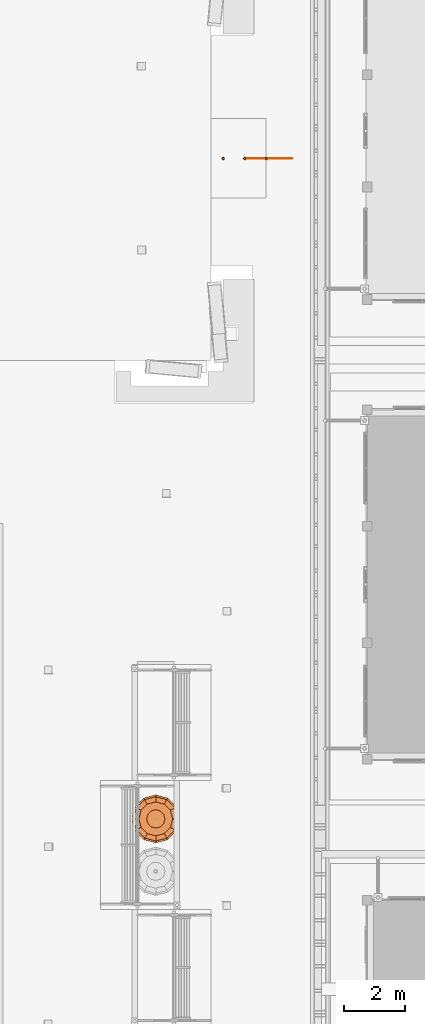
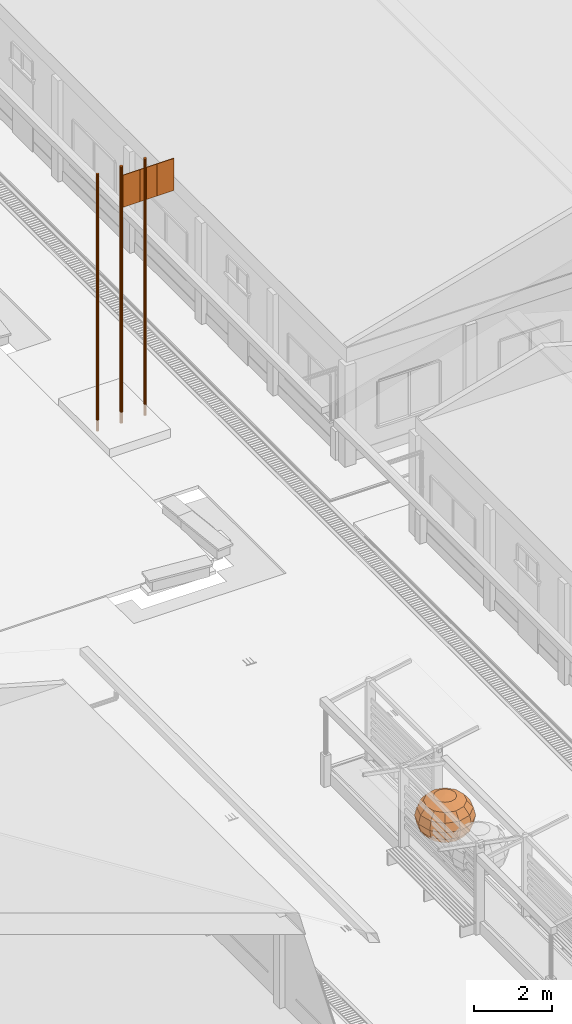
# One storey, part 153 of 166: 7 proxies.
"""IFC2X3 building model written with IfcOpenShell, lengths in metres."""

from ifc_helpers import new_model, si_unit, origin, origin_with_axes, place, context, subcontext, project, spatial, faceted_brep, element, save


model = new_model("IFC2X3")

# Units and contexts
model_context = context("Model", 3, precision=1e-05, world=origin_with_axes())
body_context = subcontext(model_context, "Body", "Model", "MODEL_VIEW")
ifc_project = project(units=[si_unit("LENGTHUNIT", "METRE"), si_unit("AREAUNIT", "SQUARE_METRE"), si_unit("VOLUMEUNIT", "CUBIC_METRE"), si_unit("PLANEANGLEUNIT", "RADIAN")], contexts=[model_context])

# Site, building, storey
site_placement = place(None, origin_with_axes())
site = spatial("IfcSite", under=ifc_project, at=site_placement, Name="Predio Los Mangos - Morales, San Martín", CompositionType="ELEMENT")
building_placement = place(site_placement, origin())
building = spatial("IfcBuilding", under=site, at=building_placement, Name="Hogar de Refugio Temporal", CompositionType="ELEMENT")
storey_placement = place(building_placement, origin())
storey = spatial("IfcBuildingStorey", under=building, at=storey_placement, Name="NIVEL 1 (NPT +0.00)", CompositionType="ELEMENT", Elevation=0.0)

# Proxies
proxy_1_placement = place(storey_placement, origin())
element("IfcBuildingElementProxy", 1, at=proxy_1_placement, inside=storey, Name="Cylinder", ObjectType="Elemento", context=body_context, shape_type="Brep", body=[
    faceted_brep([(40.6, 62.54, 0.0), (40.6, 62.54, 8.0), (40.6078, 62.5392, 8.0), (40.6078, 62.5392, 0.0), (40.6153, 62.537, 8.0), (40.6153, 62.537, 0.0), (40.6222, 62.5333, 8.0), (40.6222, 62.5333, 0.0), (40.6283, 62.5283, 8.0), (40.6283, 62.5283, 0.0), (40.6333, 62.5222, 8.0), (40.6333, 62.5222, 0.0), (40.637, 62.5153, 8.0), (40.637, 62.5153, 0.0), (40.6392, 62.5078, 8.0), (40.6392, 62.5078, 0.0), (40.64, 62.5, 8.0), (40.64, 62.5, 0.0), (40.6392, 62.4922, 8.0), (40.6392, 62.4922, 0.0), (40.637, 62.4847, 8.0), (40.637, 62.4847, 0.0), (40.6333, 62.4778, 8.0), (40.6333, 62.4778, 0.0), (40.6283, 62.4717, 8.0), (40.6283, 62.4717, 0.0), (40.6222, 62.4667, 8.0), (40.6222, 62.4667, 0.0), (40.6153, 62.463, 8.0), (40.6153, 62.463, 0.0), (40.6078, 62.4608, 8.0), (40.6078, 62.4608, 0.0), (40.6, 62.46, 8.0), (40.6, 62.46, 0.0), (40.5922, 62.4608, 8.0), (40.5922, 62.4608, 0.0), (40.5847, 62.463, 8.0), (40.5847, 62.463, 0.0), (40.5778, 62.4667, 8.0), (40.5778, 62.4667, 0.0), (40.5717, 62.4717, 8.0), (40.5717, 62.4717, 0.0), (40.5667, 62.4778, 8.0), (40.5667, 62.4778, 0.0), (40.563, 62.4847, 8.0), (40.563, 62.4847, 0.0), (40.5608, 62.4922, 8.0), (40.5608, 62.4922, 0.0), (40.56, 62.5, 8.0), (40.56, 62.5, 0.0), (40.5608, 62.5078, 8.0), (40.5608, 62.5078, 0.0), (40.563, 62.5153, 8.0), (40.563, 62.5153, 0.0), (40.5667, 62.5222, 8.0), (40.5667, 62.5222, 0.0), (40.5717, 62.5283, 8.0), (40.5717, 62.5283, 0.0), (40.5778, 62.5333, 8.0), (40.5778, 62.5333, 0.0), (40.5847, 62.537, 8.0), (40.5847, 62.537, 0.0), (40.5922, 62.5392, 8.0), (40.5922, 62.5392, 0.0)], [[[0, 1, 2, 3]], [[3, 2, 4, 5]], [[5, 4, 6, 7]], [[7, 6, 8, 9]], [[9, 8, 10, 11]], [[11, 10, 12, 13]], [[13, 12, 14, 15]], [[15, 14, 16, 17]], [[17, 16, 18, 19]], [[19, 18, 20, 21]], [[21, 20, 22, 23]], [[23, 22, 24, 25]], [[25, 24, 26, 27]], [[27, 26, 28, 29]], [[29, 28, 30, 31]], [[31, 30, 32, 33]], [[33, 32, 34, 35]], [[35, 34, 36, 37]], [[37, 36, 38, 39]], [[39, 38, 40, 41]], [[41, 40, 42, 43]], [[43, 42, 44, 45]], [[45, 44, 46, 47]], [[47, 46, 48, 49]], [[49, 48, 50, 51]], [[51, 50, 52, 53]], [[53, 52, 54, 55]], [[55, 54, 56, 57]], [[57, 56, 58, 59]], [[59, 58, 60, 61]], [[2, 1, 62, 60, 58, 56, 54, 52, 50, 48, 46, 44, 42, 40, 38, 36, 34, 32, 30, 28, 26, 24, 22, 20, 18, 16, 14, 12, 10, 8, 6, 4]], [[61, 60, 62, 63]], [[63, 62, 1, 0]], [[0, 3, 5, 7, 9, 11, 13, 15, 17, 19, 21, 23, 25, 27, 29, 31, 33, 35, 37, 39, 41, 43, 45, 47, 49, 51, 53, 55, 57, 59, 61, 63]]]),
])
proxy_2_placement = place(storey_placement, origin())
element("IfcBuildingElementProxy", 2, at=proxy_2_placement, inside=storey, Name="Cylinder", ObjectType="Elemento", context=body_context, shape_type="Brep", body=[
    faceted_brep([(41.3, 62.54, 0.0), (41.3, 62.54, 8.0), (41.3078, 62.5392, 8.0), (41.3078, 62.5392, 0.0), (41.3153, 62.537, 8.0), (41.3153, 62.537, 0.0), (41.3222, 62.5333, 8.0), (41.3222, 62.5333, 0.0), (41.3283, 62.5283, 8.0), (41.3283, 62.5283, 0.0), (41.3333, 62.5222, 8.0), (41.3333, 62.5222, 0.0), (41.337, 62.5153, 8.0), (41.337, 62.5153, 0.0), (41.3392, 62.5078, 8.0), (41.3392, 62.5078, 0.0), (41.34, 62.5, 8.0), (41.34, 62.5, 0.0), (41.3392, 62.4922, 8.0), (41.3392, 62.4922, 0.0), (41.337, 62.4847, 8.0), (41.337, 62.4847, 0.0), (41.3333, 62.4778, 8.0), (41.3333, 62.4778, 0.0), (41.3283, 62.4717, 8.0), (41.3283, 62.4717, 0.0), (41.3222, 62.4667, 8.0), (41.3222, 62.4667, 0.0), (41.3153, 62.463, 8.0), (41.3153, 62.463, 0.0), (41.3078, 62.4608, 8.0), (41.3078, 62.4608, 0.0), (41.3, 62.46, 8.0), (41.3, 62.46, 0.0), (41.2922, 62.4608, 8.0), (41.2922, 62.4608, 0.0), (41.2847, 62.463, 8.0), (41.2847, 62.463, 0.0), (41.2778, 62.4667, 8.0), (41.2778, 62.4667, 0.0), (41.2717, 62.4717, 8.0), (41.2717, 62.4717, 0.0), (41.2667, 62.4778, 8.0), (41.2667, 62.4778, 0.0), (41.263, 62.4847, 8.0), (41.263, 62.4847, 0.0), (41.2608, 62.4922, 8.0), (41.2608, 62.4922, 0.0), (41.26, 62.5, 8.0), (41.26, 62.5, 0.0), (41.2608, 62.5078, 8.0), (41.2608, 62.5078, 0.0), (41.263, 62.5153, 8.0), (41.263, 62.5153, 0.0), (41.2667, 62.5222, 8.0), (41.2667, 62.5222, 0.0), (41.2717, 62.5283, 8.0), (41.2717, 62.5283, 0.0), (41.2778, 62.5333, 8.0), (41.2778, 62.5333, 0.0), (41.2847, 62.537, 8.0), (41.2847, 62.537, 0.0), (41.2922, 62.5392, 8.0), (41.2922, 62.5392, 0.0)], [[[0, 1, 2, 3]], [[3, 2, 4, 5]], [[5, 4, 6, 7]], [[7, 6, 8, 9]], [[9, 8, 10, 11]], [[11, 10, 12, 13]], [[13, 12, 14, 15]], [[15, 14, 16, 17]], [[17, 16, 18, 19]], [[19, 18, 20, 21]], [[21, 20, 22, 23]], [[23, 22, 24, 25]], [[25, 24, 26, 27]], [[27, 26, 28, 29]], [[29, 28, 30, 31]], [[31, 30, 32, 33]], [[33, 32, 34, 35]], [[35, 34, 36, 37]], [[37, 36, 38, 39]], [[39, 38, 40, 41]], [[41, 40, 42, 43]], [[43, 42, 44, 45]], [[45, 44, 46, 47]], [[47, 46, 48, 49]], [[49, 48, 50, 51]], [[51, 50, 52, 53]], [[53, 52, 54, 55]], [[55, 54, 56, 57]], [[57, 56, 58, 59]], [[59, 58, 60, 61]], [[2, 1, 62, 60, 58, 56, 54, 52, 50, 48, 46, 44, 42, 40, 38, 36, 34, 32, 30, 28, 26, 24, 22, 20, 18, 16, 14, 12, 10, 8, 6, 4]], [[61, 60, 62, 63]], [[63, 62, 1, 0]], [[0, 3, 5, 7, 9, 11, 13, 15, 17, 19, 21, 23, 25, 27, 29, 31, 33, 35, 37, 39, 41, 43, 45, 47, 49, 51, 53, 55, 57, 59, 61, 63]]]),
])
proxy_3_placement = place(storey_placement, origin())
element("IfcBuildingElementProxy", 3, at=proxy_3_placement, inside=storey, Name="bandera", ObjectType="Asta de banderas", context=body_context, shape_type="Brep", body=[
    faceted_brep([(41.35, 62.49, 6.7), (41.35, 62.51, 6.7), (41.85, 62.51, 6.7), (41.85, 62.49, 6.7), (41.35, 62.49, 7.7), (41.85, 62.49, 7.7), (41.85, 62.51, 7.7), (41.35, 62.51, 7.7)], [[[0, 1, 2, 3]], [[4, 5, 6, 7]], [[0, 3, 5, 4]], [[3, 2, 6, 5]], [[2, 1, 7, 6]], [[1, 0, 4, 7]]]),
])
proxy_4_placement = place(storey_placement, origin())
element("IfcBuildingElementProxy", 4, at=proxy_4_placement, inside=storey, Name="bandera", ObjectType="Asta de banderas", context=body_context, shape_type="Brep", body=[
    faceted_brep([(41.85, 62.49, 6.7), (41.85, 62.51, 6.7), (42.35, 62.51, 6.7), (42.35, 62.49, 6.7), (41.85, 62.49, 7.7), (42.35, 62.49, 7.7), (42.35, 62.51, 7.7), (41.85, 62.51, 7.7)], [[[0, 1, 2, 3]], [[4, 5, 6, 7]], [[0, 3, 5, 4]], [[3, 2, 6, 5]], [[2, 1, 7, 6]], [[1, 0, 4, 7]]]),
])
proxy_5_placement = place(storey_placement, origin())
element("IfcBuildingElementProxy", 5, at=proxy_5_placement, inside=storey, Name="bandera", ObjectType="Asta de banderas", context=body_context, shape_type="Brep", body=[
    faceted_brep([(42.35, 62.49, 6.7), (42.35, 62.51, 6.7), (42.85, 62.51, 6.7), (42.85, 62.49, 6.7), (42.35, 62.49, 7.7), (42.85, 62.49, 7.7), (42.85, 62.51, 7.7), (42.35, 62.51, 7.7)], [[[0, 1, 2, 3]], [[4, 5, 6, 7]], [[0, 3, 5, 4]], [[3, 2, 6, 5]], [[2, 1, 7, 6]], [[1, 0, 4, 7]]]),
])
proxy_6_placement = place(storey_placement, origin())
element("IfcBuildingElementProxy", 6, at=proxy_6_placement, inside=storey, Name="Cylinder", ObjectType="Elemento", context=body_context, shape_type="Brep", body=[
    faceted_brep([(42.0, 62.54, 0.0), (42.0, 62.54, 8.0), (42.0078, 62.5392, 8.0), (42.0078, 62.5392, 0.0), (42.0153, 62.537, 8.0), (42.0153, 62.537, 0.0), (42.0222, 62.5333, 8.0), (42.0222, 62.5333, 0.0), (42.0283, 62.5283, 8.0), (42.0283, 62.5283, 0.0), (42.0333, 62.5222, 8.0), (42.0333, 62.5222, 0.0), (42.037, 62.5153, 8.0), (42.037, 62.5153, 0.0), (42.0392, 62.5078, 8.0), (42.0392, 62.5078, 0.0), (42.04, 62.5, 8.0), (42.04, 62.5, 0.0), (42.0392, 62.4922, 8.0), (42.0392, 62.4922, 0.0), (42.037, 62.4847, 8.0), (42.037, 62.4847, 0.0), (42.0333, 62.4778, 8.0), (42.0333, 62.4778, 0.0), (42.0283, 62.4717, 8.0), (42.0283, 62.4717, 0.0), (42.0222, 62.4667, 8.0), (42.0222, 62.4667, 0.0), (42.0153, 62.463, 8.0), (42.0153, 62.463, 0.0), (42.0078, 62.4608, 8.0), (42.0078, 62.4608, 0.0), (42.0, 62.46, 8.0), (42.0, 62.46, 0.0), (41.9922, 62.4608, 8.0), (41.9922, 62.4608, 0.0), (41.9847, 62.463, 8.0), (41.9847, 62.463, 0.0), (41.9778, 62.4667, 8.0), (41.9778, 62.4667, 0.0), (41.9717, 62.4717, 8.0), (41.9717, 62.4717, 0.0), (41.9667, 62.4778, 8.0), (41.9667, 62.4778, 0.0), (41.963, 62.4847, 8.0), (41.963, 62.4847, 0.0), (41.9608, 62.4922, 8.0), (41.9608, 62.4922, 0.0), (41.96, 62.5, 8.0), (41.96, 62.5, 0.0), (41.9608, 62.5078, 8.0), (41.9608, 62.5078, 0.0), (41.963, 62.5153, 8.0), (41.963, 62.5153, 0.0), (41.9667, 62.5222, 8.0), (41.9667, 62.5222, 0.0), (41.9717, 62.5283, 8.0), (41.9717, 62.5283, 0.0), (41.9778, 62.5333, 8.0), (41.9778, 62.5333, 0.0), (41.9847, 62.537, 8.0), (41.9847, 62.537, 0.0), (41.9922, 62.5392, 8.0), (41.9922, 62.5392, 0.0)], [[[0, 1, 2, 3]], [[3, 2, 4, 5]], [[5, 4, 6, 7]], [[7, 6, 8, 9]], [[9, 8, 10, 11]], [[11, 10, 12, 13]], [[13, 12, 14, 15]], [[15, 14, 16, 17]], [[17, 16, 18, 19]], [[19, 18, 20, 21]], [[21, 20, 22, 23]], [[23, 22, 24, 25]], [[25, 24, 26, 27]], [[27, 26, 28, 29]], [[29, 28, 30, 31]], [[31, 30, 32, 33]], [[33, 32, 34, 35]], [[35, 34, 36, 37]], [[37, 36, 38, 39]], [[39, 38, 40, 41]], [[41, 40, 42, 43]], [[43, 42, 44, 45]], [[45, 44, 46, 47]], [[47, 46, 48, 49]], [[49, 48, 50, 51]], [[51, 50, 52, 53]], [[53, 52, 54, 55]], [[55, 54, 56, 57]], [[57, 56, 58, 59]], [[59, 58, 60, 61]], [[2, 1, 62, 60, 58, 56, 54, 52, 50, 48, 46, 44, 42, 40, 38, 36, 34, 32, 30, 28, 26, 24, 22, 20, 18, 16, 14, 12, 10, 8, 6, 4]], [[61, 60, 62, 63]], [[63, 62, 1, 0]], [[0, 3, 5, 7, 9, 11, 13, 15, 17, 19, 21, 23, 25, 27, 29, 31, 33, 35, 37, 39, 41, 43, 45, 47, 49, 51, 53, 55, 57, 59, 61, 63]]]),
])
proxy_7_placement = place(storey_placement, origin())
element("IfcBuildingElementProxy", 7, at=proxy_7_placement, inside=storey, Name="arbol_copa", ObjectType="Árbol", context=body_context, shape_type="Brep", body=[
    faceted_brep([(38.4, 40.955, 2.5172), (38.4, 40.955, 2.5172), (38.6592, 41.1046, 2.4666), (38.6993, 40.955, 2.4666), (38.4, 40.955, 2.5172), (38.5496, 41.2142, 2.4666), (38.4, 40.955, 2.5172), (38.4, 41.2543, 2.4666), (38.4, 40.955, 2.5172), (38.2504, 41.2142, 2.4666), (38.4, 40.955, 2.5172), (38.1408, 41.1046, 2.4666), (38.4, 40.955, 2.5172), (38.1007, 40.955, 2.4666), (38.4, 40.955, 2.5172), (38.1408, 40.8054, 2.4666), (38.4, 40.955, 2.5172), (38.2504, 40.6958, 2.4666), (38.4, 40.955, 2.5172), (38.4, 40.6557, 2.4666), (38.4, 40.955, 2.5172), (38.5496, 40.6958, 2.4666), (38.4, 40.955, 2.5172), (38.6592, 40.8054, 2.4666), (38.8789, 41.2315, 2.3225), (38.953, 40.955, 2.3225), (38.6765, 41.4339, 2.3225), (38.4, 41.508, 2.3225), (38.1235, 41.4339, 2.3225), (37.9211, 41.2315, 2.3225), (37.847, 40.955, 2.3225), (37.9211, 40.6785, 2.3225), (38.1235, 40.4761, 2.3225), (38.4, 40.402, 2.3225), (38.6765, 40.4761, 2.3225), (38.8789, 40.6785, 2.3225), (39.0257, 41.3162, 2.1069), (39.1225, 40.955, 2.1069), (38.7612, 41.5807, 2.1069), (38.4, 41.6775, 2.1069), (38.0388, 41.5807, 2.1069), (37.7743, 41.3162, 2.1069), (37.6775, 40.955, 2.1069), (37.7743, 40.5938, 2.1069), (38.0388, 40.3293, 2.1069), (38.4, 40.2325, 2.1069), (38.7612, 40.3293, 2.1069), (39.0257, 40.5938, 2.1069), (39.0772, 41.346, 1.8525), (39.182, 40.955, 1.8525), (38.791, 41.6322, 1.8525), (38.4, 41.737, 1.8525), (38.009, 41.6322, 1.8525), (37.7228, 41.346, 1.8525), (37.618, 40.955, 1.8525), (37.7228, 40.564, 1.8525), (38.009, 40.2778, 1.8525), (38.4, 40.173, 1.8525), (38.791, 40.2778, 1.8525), (39.0772, 40.564, 1.8525), (39.0257, 41.3162, 1.5981), (39.1225, 40.955, 1.5981), (38.7612, 41.5807, 1.5981), (38.4, 41.6775, 1.5981), (38.0388, 41.5807, 1.5981), (37.7743, 41.3162, 1.5981), (37.6775, 40.955, 1.5981), (37.7743, 40.5938, 1.5981), (38.0388, 40.3293, 1.5981), (38.4, 40.2325, 1.5981), (38.7612, 40.3293, 1.5981), (39.0257, 40.5938, 1.5981), (38.8789, 41.2315, 1.3825), (38.953, 40.955, 1.3825), (38.6765, 41.4339, 1.3825), (38.4, 41.508, 1.3825), (38.1235, 41.4339, 1.3825), (37.9211, 41.2315, 1.3825), (37.847, 40.955, 1.3825), (37.9211, 40.6785, 1.3825), (38.1235, 40.4761, 1.3825), (38.4, 40.402, 1.3825), (38.6765, 40.4761, 1.3825), (38.8789, 40.6785, 1.3825), (38.6592, 41.1046, 1.2384), (38.6993, 40.955, 1.2384), (38.5496, 41.2142, 1.2384), (38.4, 41.2543, 1.2384), (38.2504, 41.2142, 1.2384), (38.1408, 41.1046, 1.2384), (38.1007, 40.955, 1.2384), (38.1408, 40.8054, 1.2384), (38.2504, 40.6958, 1.2384), (38.4, 40.6557, 1.2384), (38.5496, 40.6958, 1.2384), (38.6592, 40.8054, 1.2384), (38.4, 40.955, 1.1878), (38.4, 40.955, 1.1878), (38.4, 40.955, 1.1878), (38.4, 40.955, 1.1878), (38.4, 40.955, 1.1878), (38.4, 40.955, 1.1878), (38.4, 40.955, 1.1878), (38.4, 40.955, 1.1878), (38.4, 40.955, 1.1878), (38.4, 40.955, 1.1878), (38.4, 40.955, 1.1878), (38.4, 40.955, 1.1878)], [[[0, 1, 2]], [[0, 2, 3]], [[1, 4, 5]], [[1, 5, 2]], [[4, 6, 7]], [[4, 7, 5]], [[6, 8, 9]], [[6, 9, 7]], [[8, 10, 11]], [[8, 11, 9]], [[10, 12, 13]], [[10, 13, 11]], [[12, 14, 15]], [[12, 15, 13]], [[14, 16, 17]], [[14, 17, 15]], [[16, 18, 19]], [[16, 19, 17]], [[18, 20, 21]], [[18, 21, 19]], [[20, 22, 23]], [[20, 23, 21]], [[22, 0, 3]], [[22, 3, 23]], [[3, 2, 24]], [[3, 24, 25]], [[2, 5, 26]], [[2, 26, 24]], [[5, 7, 27]], [[5, 27, 26]], [[7, 9, 28]], [[7, 28, 27]], [[9, 11, 29]], [[9, 29, 28]], [[11, 13, 30]], [[11, 30, 29]], [[13, 15, 31]], [[13, 31, 30]], [[15, 17, 32]], [[15, 32, 31]], [[17, 19, 33]], [[17, 33, 32]], [[19, 21, 34]], [[19, 34, 33]], [[21, 23, 35]], [[21, 35, 34]], [[23, 3, 25]], [[23, 25, 35]], [[25, 24, 36]], [[25, 36, 37]], [[24, 26, 38]], [[24, 38, 36]], [[26, 27, 39]], [[26, 39, 38]], [[27, 28, 40]], [[27, 40, 39]], [[28, 29, 41]], [[28, 41, 40]], [[29, 30, 42]], [[29, 42, 41]], [[30, 31, 43]], [[30, 43, 42]], [[31, 32, 44]], [[31, 44, 43]], [[32, 33, 45]], [[32, 45, 44]], [[33, 34, 46]], [[33, 46, 45]], [[34, 35, 47]], [[34, 47, 46]], [[35, 25, 37]], [[35, 37, 47]], [[37, 36, 48]], [[37, 48, 49]], [[36, 38, 50]], [[36, 50, 48]], [[38, 39, 51]], [[38, 51, 50]], [[39, 40, 52]], [[39, 52, 51]], [[40, 41, 53]], [[40, 53, 52]], [[41, 42, 54]], [[41, 54, 53]], [[42, 43, 55]], [[42, 55, 54]], [[43, 44, 56]], [[43, 56, 55]], [[44, 45, 57]], [[44, 57, 56]], [[45, 46, 58]], [[45, 58, 57]], [[46, 47, 59]], [[46, 59, 58]], [[47, 37, 49]], [[47, 49, 59]], [[49, 48, 60]], [[49, 60, 61]], [[48, 50, 62]], [[48, 62, 60]], [[50, 51, 63]], [[50, 63, 62]], [[51, 52, 64]], [[51, 64, 63]], [[52, 53, 65]], [[52, 65, 64]], [[53, 54, 66]], [[53, 66, 65]], [[54, 55, 67]], [[54, 67, 66]], [[55, 56, 68]], [[55, 68, 67]], [[56, 57, 69]], [[56, 69, 68]], [[57, 58, 70]], [[57, 70, 69]], [[58, 59, 71]], [[58, 71, 70]], [[59, 49, 61]], [[59, 61, 71]], [[61, 60, 72]], [[61, 72, 73]], [[60, 62, 74]], [[60, 74, 72]], [[62, 63, 75]], [[62, 75, 74]], [[63, 64, 76]], [[63, 76, 75]], [[64, 65, 77]], [[64, 77, 76]], [[65, 66, 78]], [[65, 78, 77]], [[66, 67, 79]], [[66, 79, 78]], [[67, 68, 80]], [[67, 80, 79]], [[68, 69, 81]], [[68, 81, 80]], [[69, 70, 82]], [[69, 82, 81]], [[70, 71, 83]], [[70, 83, 82]], [[71, 61, 73]], [[71, 73, 83]], [[73, 72, 84]], [[73, 84, 85]], [[72, 74, 86]], [[72, 86, 84]], [[74, 75, 87]], [[74, 87, 86]], [[75, 76, 88]], [[75, 88, 87]], [[76, 77, 89]], [[76, 89, 88]], [[77, 78, 90]], [[77, 90, 89]], [[78, 79, 91]], [[78, 91, 90]], [[79, 80, 92]], [[79, 92, 91]], [[80, 81, 93]], [[80, 93, 92]], [[81, 82, 94]], [[81, 94, 93]], [[82, 83, 95]], [[82, 95, 94]], [[83, 73, 85]], [[83, 85, 95]], [[85, 84, 96]], [[85, 96, 97]], [[84, 86, 98]], [[84, 98, 96]], [[86, 87, 99]], [[86, 99, 98]], [[87, 88, 100]], [[87, 100, 99]], [[88, 89, 101]], [[88, 101, 100]], [[89, 90, 102]], [[89, 102, 101]], [[90, 91, 103]], [[90, 103, 102]], [[91, 92, 104]], [[91, 104, 103]], [[92, 93, 105]], [[92, 105, 104]], [[93, 94, 106]], [[93, 106, 105]], [[94, 95, 107]], [[94, 107, 106]], [[95, 85, 97]], [[95, 97, 107]]]),
])

save(model, "model.ifc")
